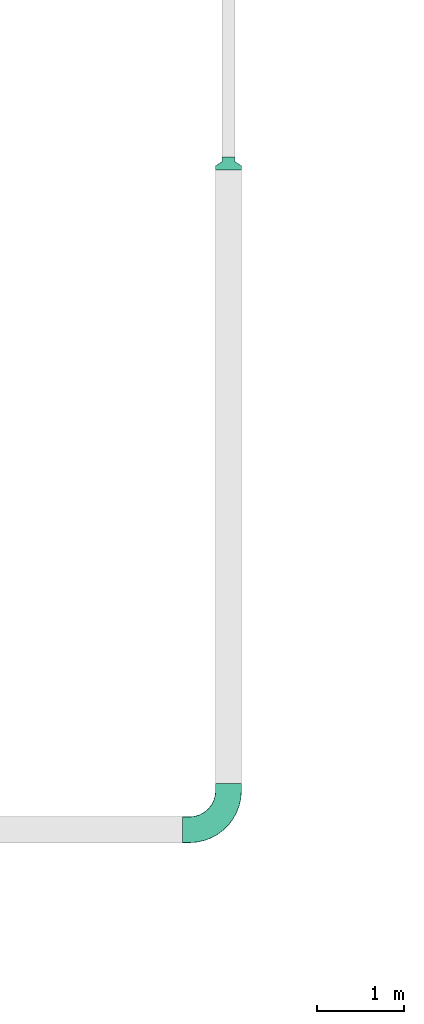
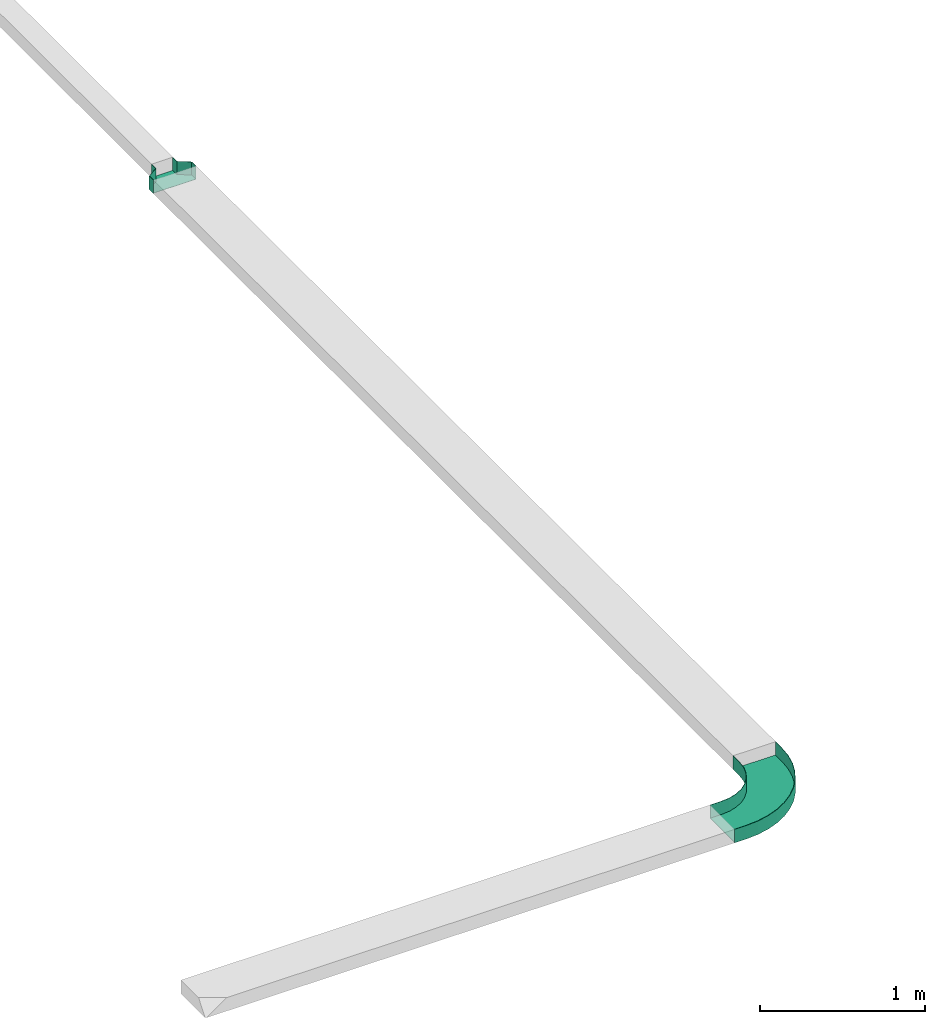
# One storey, part 32 of 197: 2 flow fittings.
"""IFC2X3 building model written with IfcOpenShell, lengths in metres."""

from ifc_helpers import new_model, entity, si_unit, converted_unit, direction, frame, origin, place, context, subcontext, project, spatial, faceted_brep, source, transform, mapped, material, type_object, type_shapes, element, save


model = new_model("IFC2X3")

# Units and contexts
model_context = context("Model", 3, precision=1e-05, world=origin(), true_north=direction((6.123031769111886e-17, 1.0)))
body_context = subcontext(model_context, "Body", "Model", "MODEL_VIEW")
ifc_project = project(units=[si_unit("LENGTHUNIT", "METRE"), converted_unit("PLANEANGLEUNIT", "DEGREE", entity("IfcPlaneAngleMeasure", 0.017453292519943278), si_unit("PLANEANGLEUNIT", "RADIAN"), dimensions=[0, 0, 0, 0, 0, 0, 0]), si_unit("AREAUNIT", "SQUARE_METRE")], contexts=[model_context])

# Site, building, storey
site_placement = place(None, origin())
site = spatial("IfcSite", under=ifc_project, at=site_placement, Name="Default", CompositionType="ELEMENT")
building_placement = place(site_placement, origin())
building = spatial("IfcBuilding", under=site, at=building_placement, CompositionType="ELEMENT")
storey_placement = place(building_placement, origin())
storey = spatial("IfcBuildingStorey", under=building, at=storey_placement, Name="Niveau 0", CompositionType="ELEMENT", Elevation=0.0)

# Flow fittings
ifc_material = material(Name="<Unnamed>")
cable_carrier_fitting_type_1 = type_object("IfcCableCarrierFittingType", Name="Chemin de câbles - Courbure:CDC INCENDIE", PredefinedType="NOTDEFINED", material=ifc_material)
shared_shape_1 = source(origin(), body_context, "Body", "Brep", [
    faceted_brep([(-0.5299999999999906, -0.14746000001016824, -0.047460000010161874), (-0.5299999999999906, 0.14746000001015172, -0.047460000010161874), (-0.5299999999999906, 0.14746000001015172, 0.04999999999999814), (-0.5299999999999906, 0.14999999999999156, 0.04999999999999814), (-0.5299999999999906, 0.14999999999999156, -0.05000000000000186), (-0.5299999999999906, -0.1500000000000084, -0.05000000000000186), (-0.5299999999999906, -0.1500000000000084, 0.04999999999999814), (-0.5299999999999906, -0.14746000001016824, 0.04999999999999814), (-0.44999999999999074, -0.15000000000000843, -0.050000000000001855), (-0.44999999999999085, -0.15000000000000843, 0.04999999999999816), (-0.3646110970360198, -0.1438928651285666, 0.04999999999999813), (-0.2809604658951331, -0.12569578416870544, 0.049999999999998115), (-0.2007509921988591, -0.09577919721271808, 0.04999999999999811), (-0.12561550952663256, -0.054752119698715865, 0.0499999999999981), (-0.05708355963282, -0.0034497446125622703, 0.049999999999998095), (0.0034497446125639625, 0.05708355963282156, 0.04999999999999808), (0.05475211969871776, 0.12561550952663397, 0.04999999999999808), (0.09577919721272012, 0.20075099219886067, 0.049999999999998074), (0.12569578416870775, 0.2809604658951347, 0.049999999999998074), (0.14389286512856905, 0.3646110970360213, 0.049999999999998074), (0.15000000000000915, 0.44999999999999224, 0.04999999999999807), (0.15000000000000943, 0.5299999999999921, 0.04999999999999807), (0.14746000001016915, 0.5299999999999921, 0.049999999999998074), (0.1474600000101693, 0.4499999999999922, 0.049999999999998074), (0.14137871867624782, 0.3649725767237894, 0.049999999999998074), (0.12325867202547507, 0.28167606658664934, 0.049999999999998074), (0.09346873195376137, 0.20180614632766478, 0.049999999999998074), (0.05261533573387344, 0.12698873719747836, 0.04999999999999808), (0.0015301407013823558, 0.05874690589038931, 0.04999999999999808), (-0.05874690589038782, -0.0015301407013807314, 0.049999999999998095), (-0.12698873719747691, -0.05261533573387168, 0.0499999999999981), (-0.20180614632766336, -0.09346873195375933, 0.04999999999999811), (-0.281676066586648, -0.1232586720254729, 0.049999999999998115), (-0.364972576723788, -0.1413787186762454, 0.04999999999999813), (-0.44999999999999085, -0.14746000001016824, 0.049999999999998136), (-0.44999999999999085, 0.14746000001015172, 0.04999999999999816), (-0.3909773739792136, 0.15327322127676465, 0.04999999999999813), (-0.3342229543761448, 0.17048948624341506, 0.04999999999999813), (-0.2819177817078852, 0.19844718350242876, 0.049999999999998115), (-0.2360719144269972, 0.2360719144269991, 0.04999999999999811), (-0.19844718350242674, 0.281917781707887, 0.04999999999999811), (-0.17048948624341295, 0.33422295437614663, 0.04999999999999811), (-0.15327322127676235, 0.39097737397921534, 0.0499999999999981), (-0.14746000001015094, 0.4499999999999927, 0.0499999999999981), (-0.1474600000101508, 0.5299999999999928, 0.0499999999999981), (-0.1499999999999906, 0.5299999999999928, 0.0499999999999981), (-0.1499999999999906, 0.4499999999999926, 0.0499999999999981), (-0.15576441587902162, 0.3914729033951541, 0.0499999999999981), (-0.17283614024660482, 0.3351949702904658, 0.04999999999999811), (-0.2005591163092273, 0.2833289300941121, 0.04999999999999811), (-0.23786796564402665, 0.2378679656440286, 0.04999999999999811), (-0.28332893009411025, 0.20055911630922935, 0.049999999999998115), (-0.33519497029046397, 0.17283614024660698, 0.04999999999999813), (-0.3914729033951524, 0.15576441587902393, 0.04999999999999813), (-0.44999999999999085, 0.14999999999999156, 0.049999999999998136), (-0.44999999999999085, -0.14746000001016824, -0.047460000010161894), (-0.364972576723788, -0.1413787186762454, -0.04746000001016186), (-0.281676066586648, -0.1232586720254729, -0.04746000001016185), (-0.20180614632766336, -0.09346873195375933, -0.04746000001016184), (-0.12698873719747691, -0.05261533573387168, -0.04746000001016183), (-0.05874690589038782, -0.0015301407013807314, -0.047460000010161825), (0.0015301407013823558, 0.05874690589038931, -0.04746000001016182), (0.05261533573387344, 0.12698873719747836, -0.04746000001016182), (0.09346873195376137, 0.20180614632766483, -0.047460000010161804), (0.12325867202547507, 0.28167606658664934, -0.047460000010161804), (0.14137871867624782, 0.3649725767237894, -0.047460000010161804), (0.147460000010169, 0.4499999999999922, -0.047460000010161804), (0.14746000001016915, 0.5299999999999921, -0.047460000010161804), (-0.1474600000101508, 0.5299999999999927, -0.04746000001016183), (-0.1474600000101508, 0.4499999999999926, -0.04746000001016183), (-0.15327322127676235, 0.39097737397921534, -0.04746000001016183), (-0.17048948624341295, 0.33422295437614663, -0.04746000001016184), (-0.19844718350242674, 0.28191778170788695, -0.04746000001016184), (-0.2360719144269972, 0.23607191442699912, -0.04746000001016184), (-0.2819177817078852, 0.19844718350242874, -0.04746000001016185), (-0.3342229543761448, 0.17048948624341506, -0.04746000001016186), (-0.3909773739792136, 0.15327322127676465, -0.04746000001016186), (-0.44999999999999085, 0.14746000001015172, -0.04746000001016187), (-0.44999999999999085, 0.14999999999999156, -0.05000000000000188), (-0.3914729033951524, 0.15576441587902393, -0.05000000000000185), (-0.33519497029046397, 0.17283614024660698, -0.05000000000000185), (-0.28332893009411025, 0.20055911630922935, -0.05000000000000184), (-0.23786796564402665, 0.2378679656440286, -0.050000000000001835), (-0.2005591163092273, 0.2833289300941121, -0.050000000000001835), (-0.17283614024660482, 0.3351949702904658, -0.050000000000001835), (-0.15576441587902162, 0.3914729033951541, -0.05000000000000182), (-0.14999999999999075, 0.4499999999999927, -0.05000000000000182), (-0.1499999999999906, 0.5299999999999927, -0.05000000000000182), (0.1500000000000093, 0.5299999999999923, -0.050000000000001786), (0.15000000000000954, 0.4499999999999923, -0.050000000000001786), (0.14389286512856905, 0.3646110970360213, -0.0500000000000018), (0.12569578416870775, 0.2809604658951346, -0.0500000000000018), (0.09577919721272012, 0.20075099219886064, -0.0500000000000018), (0.05475211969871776, 0.12561550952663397, -0.05000000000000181), (0.0034497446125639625, 0.05708355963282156, -0.05000000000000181), (-0.05708355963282, -0.0034497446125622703, -0.050000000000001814), (-0.12561550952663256, -0.054752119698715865, -0.05000000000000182), (-0.2007509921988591, -0.09577919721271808, -0.050000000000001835), (-0.2809604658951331, -0.12569578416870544, -0.05000000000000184), (-0.3646110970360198, -0.1438928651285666, -0.05000000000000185)], [[[0, 1, 2, 3, 4, 5, 6, 7]], [[6, 5, 8, 9]], [[6, 9, 10, 11, 12, 13, 14, 15, 16, 17, 18, 19, 20, 21, 22, 23, 24, 25, 26, 27, 28, 29, 30, 31, 32, 33, 34, 7]], [[3, 2, 35, 36, 37, 38, 39, 40, 41, 42, 43, 44, 45, 46, 47, 48, 49, 50, 51, 52, 53, 54]], [[0, 7, 34, 55]], [[0, 55, 56, 57, 58, 59, 60, 61, 62, 63, 64, 65, 66, 67, 68, 69, 70, 71, 72, 73, 74, 75, 76, 77, 1]], [[2, 1, 77, 35]], [[4, 3, 54, 78]], [[79, 80, 81, 82, 83, 84, 85, 86, 87, 88, 89, 90, 91, 92, 93, 94, 95, 96, 97, 98, 99, 8, 5, 4, 78]], [[99, 10, 9, 8]], [[98, 11, 10, 99]], [[96, 95, 14, 13]], [[97, 12, 11, 98]], [[12, 97, 96, 13]], [[95, 94, 15, 14]], [[15, 94, 93, 16]], [[92, 17, 16, 93]], [[18, 91, 90, 19]], [[92, 91, 18, 17]], [[19, 90, 89, 20]], [[55, 34, 33, 56]], [[56, 33, 32, 57]], [[29, 60, 59, 30]], [[57, 32, 31, 58]], [[59, 58, 31, 30]], [[29, 28, 61, 60]], [[62, 61, 28, 27]], [[62, 27, 26, 63]], [[65, 64, 25, 24]], [[26, 25, 64, 63]], [[66, 65, 24, 23]], [[36, 35, 77, 76]], [[76, 75, 37, 36]], [[74, 38, 37, 75]], [[73, 39, 38, 74]], [[40, 72, 71, 41]], [[41, 71, 70, 42]], [[42, 70, 69, 43]], [[73, 72, 40, 39]], [[79, 78, 54, 53]], [[52, 80, 79, 53]], [[80, 52, 51, 81]], [[51, 50, 82, 81]], [[84, 83, 49, 48]], [[85, 84, 48, 47]], [[86, 85, 47, 46]], [[50, 49, 83, 82]], [[87, 45, 44, 68, 67, 22, 21, 88]], [[20, 89, 88, 21]], [[66, 23, 22, 67]], [[43, 69, 68, 44]], [[86, 46, 45, 87]]]),
])
type_shapes(cable_carrier_fitting_type_1, [shared_shape_1])
flow_fitting_1_placement = place(storey_placement, frame((-495.349980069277, 124.74551308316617, 2.75)))
element("IfcFlowFitting", 1, at=flow_fitting_1_placement, inside=storey, type_object=cable_carrier_fitting_type_1, material=ifc_material, Name="Chemin de câbles - Courbure:CDC INCENDIE", ObjectType="Chemin de câbles - Courbure:CDC INCENDIE", context=body_context, shape_type="MappedRepresentation", body=[
    mapped(shared_shape_1, transform((0.0, 0.0, 0.0), scale=1.0)),
])
cable_carrier_fitting_type_2 = type_object("IfcCableCarrierFittingType", Name="Chemin de câbles - Réduction:CDC INCENDIE", PredefinedType="NOTDEFINED", material=ifc_material)
shared_shape_2 = source(origin(), body_context, "Body", "Brep", [
    faceted_brep([(0.0, -0.15000000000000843, -0.05000000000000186), (0.0, -0.15000000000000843, 0.04999999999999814), (0.0, -0.14746000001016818, 0.04999999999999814), (0.0, -0.14746000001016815, -0.04746000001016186), (0.0, 0.1474600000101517, -0.04746000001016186), (0.0, 0.1474600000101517, 0.04999999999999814), (0.0, 0.14999999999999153, 0.04999999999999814), (0.0, 0.14999999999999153, -0.05000000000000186), (0.14999999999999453, -0.07500000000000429, -0.04999999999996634), (0.14999999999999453, 0.0749999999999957, -0.04999999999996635), (0.14999999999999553, 0.0749999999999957, 0.05000000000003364), (0.14999999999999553, 0.07246000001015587, 0.050000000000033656), (0.14999999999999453, 0.07246000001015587, -0.04746000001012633), (0.14999999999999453, -0.07246000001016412, -0.047460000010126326), (0.14999999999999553, -0.07246000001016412, 0.05000000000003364), (0.14999999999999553, -0.07500000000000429, 0.05000000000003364), (0.0500000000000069, -0.15000000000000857, -0.05000000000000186), (0.050000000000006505, -0.15000000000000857, 0.04999999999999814), (0.09999999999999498, -0.07500000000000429, 0.04999999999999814), (0.10000000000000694, -0.07246000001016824, 0.04999999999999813), (0.05000000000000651, -0.14746000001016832, 0.04999999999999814), (0.05000000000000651, -0.14746000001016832, -0.04746000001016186), (0.09999999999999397, -0.07246000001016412, -0.04746000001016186), (0.10000000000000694, 0.07246000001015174, -0.04746000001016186), (0.05000000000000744, 0.14746000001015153, -0.04746000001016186), (0.05000000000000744, 0.14746000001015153, 0.04999999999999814), (0.09999999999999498, 0.07246000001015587, 0.04999999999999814), (0.10000000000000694, 0.07499999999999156, 0.04999999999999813), (0.05000000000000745, 0.1499999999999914, 0.04999999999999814), (0.05000000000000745, 0.1499999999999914, -0.05000000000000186), (0.09999999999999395, 0.0749999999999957, -0.05000000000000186), (0.10000000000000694, -0.07500000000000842, -0.05000000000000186)], [[[0, 1, 2, 3, 4, 5, 6, 7]], [[8, 9, 10, 11, 12, 13, 14, 15]], [[1, 0, 16, 17]], [[2, 1, 17, 18, 15, 14, 19, 20]], [[3, 2, 20, 21]], [[4, 3, 21, 22, 13, 12, 23, 24]], [[5, 4, 24, 25]], [[6, 5, 25, 26, 11, 10, 27, 28]], [[7, 6, 28, 29]], [[0, 7, 29, 30, 9, 8, 31, 16]], [[8, 15, 18, 31]], [[14, 13, 22, 19]], [[12, 11, 26, 23]], [[10, 9, 30, 27]], [[30, 29, 28, 27]], [[26, 25, 24, 23]], [[22, 21, 20, 19]], [[16, 31, 18, 17]]]),
])
type_shapes(cable_carrier_fitting_type_2, [shared_shape_2])
flow_fitting_2_placement = place(storey_placement, frame((-495.349980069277, 132.31751308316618, 2.75), z_axis=(0.0, 0.0, 1.0), x_axis=(0.0, 1.0, 0.0)))
element("IfcFlowFitting", 2, at=flow_fitting_2_placement, inside=storey, type_object=cable_carrier_fitting_type_2, material=ifc_material, Name="Chemin de câbles - Réduction:CDC INCENDIE", ObjectType="Chemin de câbles - Réduction:CDC INCENDIE", context=body_context, shape_type="MappedRepresentation", body=[
    mapped(shared_shape_2, transform((0.0, 0.0, 0.0), scale=1.0)),
])

save(model, "model.ifc")
